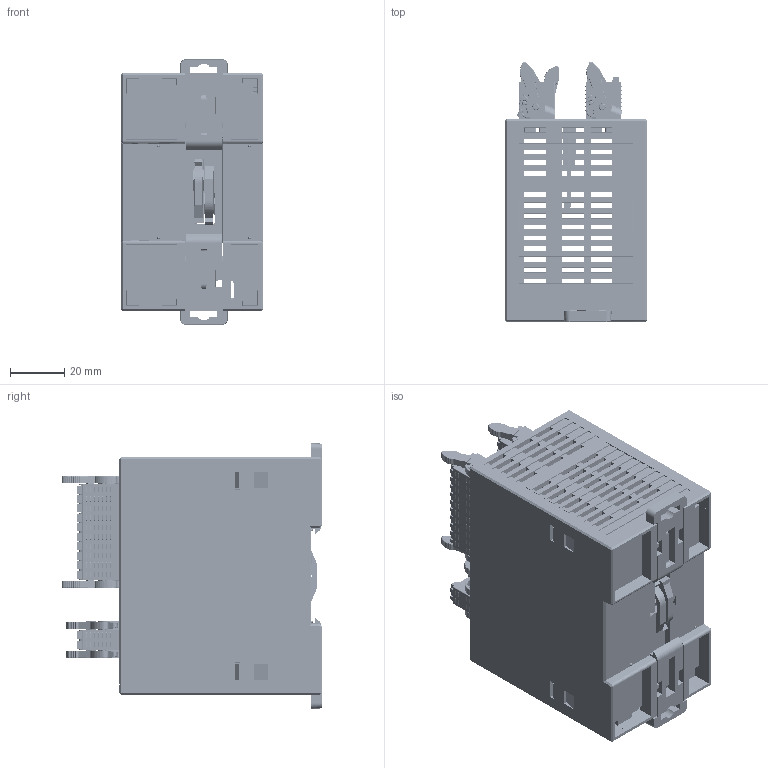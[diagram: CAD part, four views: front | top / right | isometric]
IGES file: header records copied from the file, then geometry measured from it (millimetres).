
Start section: SolidWorks IGES file using analytic representation for surfaces
Global section: file name: C:\Users\shungmu.pai\Desktop\R2-ECx004D0.IGS; native system: SolidWorks 2020; preprocessor: SolidWorks 2020; author: SHUNGMU.PAI; date: 230410.134234; units: millimetre
Bounding box: 52.5 x 95.89 x 98.28 mm (x, y, z)
Surface area: 104265.5 mm2 (no closed solid volume)
Topology: 0 solids, 0 shells, 9894 faces, 71756 edges, 71756 vertices
Faces by surface type: bspline 7048, revolution 2846
